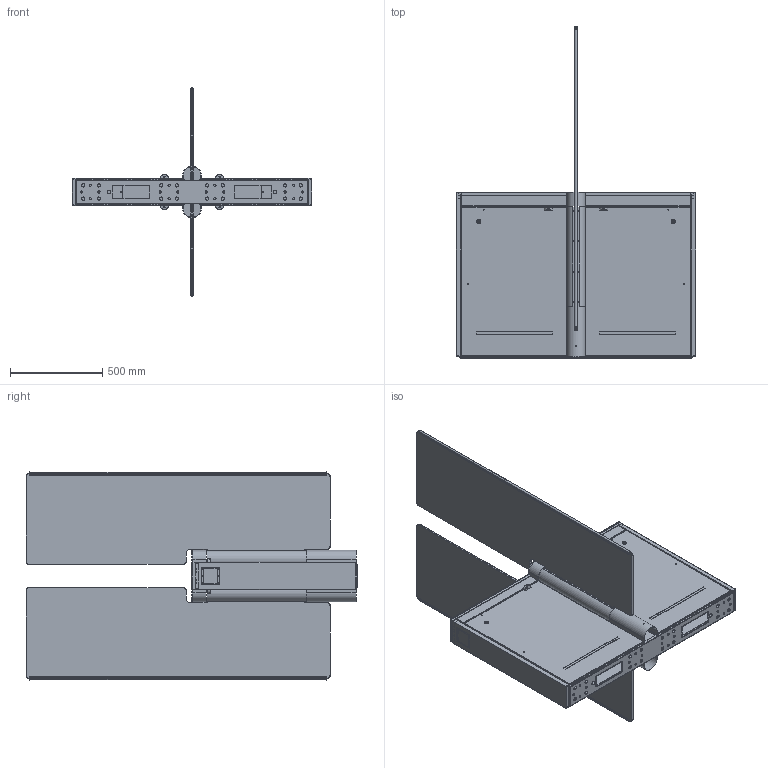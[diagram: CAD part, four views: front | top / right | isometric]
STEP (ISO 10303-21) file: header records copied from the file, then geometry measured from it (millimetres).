
FILE_DESCRIPTION (( 'STEP AP214' ), '1' );
FILE_NAME ('スターン_センター【ワイドワイド】.STEP', '2023-02-27T02:12:45', ( 'cadcl' ), ( 'Hewlett-Packard Company' ), 'SwSTEP 2.0', 'SolidWorks 2022', '' );
FILE_SCHEMA (( 'AUTOMOTIVE_DESIGN' ));
Length unit declared in the file: millimetre
Products named in the file (40): 201-06505-08_閉扉; 201-06327-55; 201-06327-51; 201-06327-79; 201-06327-13; 201-06327-81; Z01-00712-00; 201-05997-02; R33-00101-00_干渉回避用; T05-00009-00; Z01-00419-00; 201-06290-15_面発光あり; 201-06327-86; 301-06197-17_施錠; 201-06327-54; 201-06327-46; 201-06329-01; 201-06327-61; 201-06327-22; 201-06327-59; 201-06327-49; 201-06206-03_ガラス（ｔ１２）取付時; 201-06505-48; 201-06290-16; 201-06327-21; 201-06327-00; 201-06327-66; 201-06329-11; R33-00022-00_干渉回避用; 201-06290-02; 201-06327-78_施錠; 201-06327-72_施錠; 201-06329-09; 201-06329-10; スターン_センター【ワイドワイド】; 201-06327-73_展開用; 201-06327-62; 201-06327-48; 301-06197-18_施錠
Assembly tree (70 placements, depth 4):
  R33-00101-00_干渉回避用
  201-06505-48
  R33-00022-00_干渉回避用
  スターン_センター【ワイドワイド】
    201-06505-08_閉扉
      201-06327-13
        201-06327-00
      201-06327-48  x2
        201-06327-46
        201-06329-09
      201-06327-51  x2
        201-06327-49
        201-06329-09
      201-06327-72_施錠  x2
        201-06327-66
        201-06329-11
        201-06329-10
        301-06197-17_施錠
        T05-00009-00
        Z01-00419-00
      201-06327-78_施錠  x2
        201-06329-11
        201-06329-10
        301-06197-18_施錠
        Z01-00419-00
        T05-00009-00
      201-06327-81
        201-06327-79
      201-06327-21  x2
      201-06327-22  x2
      201-06327-54  x2
      201-06327-55  x2
      Z01-00712-00  x8
    201-06327-59  x2
      201-06290-02
    201-06327-61  x2
      201-05997-02
    201-06327-62  x2
    201-06329-01  x2
    201-06206-03_ガラス（ｔ１２）取付時  x2
    Z01-00712-00  x8
    201-06327-86  x2
      201-06290-16
        201-06290-15_面発光あり
    201-06327-73_展開用  x2
Bounding box: 1300 x 1799.75 x 1129.95 mm (x, y, z)
Volume: 25331344.2 mm3; surface area: 10740093.7 mm2
Topology: 70 solids, 70 shells, 3291 faces, 8334 edges, 5245 vertices
Faces by surface type: plane 1832, cylinder 1119, cone 218, bspline 98, sphere 24
Entity records: 56281 total; most frequent: CARTESIAN_POINT 11751, ORIENTED_EDGE 8878, DIRECTION 8763, EDGE_CURVE 4439, VECTOR 3077, LINE 3077, AXIS2_PLACEMENT_3D 2843, VERTEX_POINT 2803
